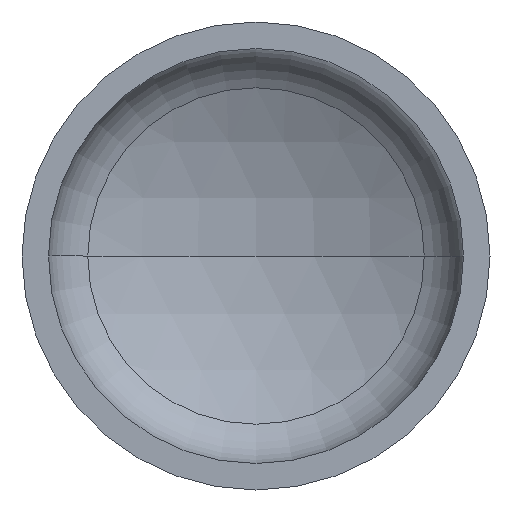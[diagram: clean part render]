
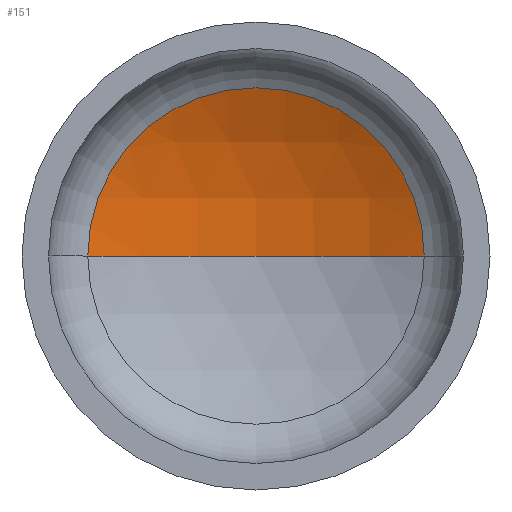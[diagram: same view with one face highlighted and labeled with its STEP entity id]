
A CAD part, front view. The second image highlights one B-rep face of the part: STEP entity #151.
In plain terms, the highlighted spherical face has radius 325 mm.
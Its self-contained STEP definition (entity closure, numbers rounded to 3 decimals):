
#12 = DIRECTION ( 'NONE',  ( 1., 0., 0. ) ) ;
#15 = EDGE_LOOP ( 'NONE', ( #114, #71, #120 ) ) ;
#24 = VERTEX_POINT ( 'NONE', #342 ) ;
#25 = AXIS2_PLACEMENT_3D ( 'NONE', #293, #165, #216 ) ;
#27 = AXIS2_PLACEMENT_3D ( 'NONE', #184, #200, #201 ) ;
#31 = AXIS2_PLACEMENT_3D ( 'NONE', #355, #309, #146 ) ;
#35 = AXIS2_PLACEMENT_3D ( 'NONE', #297, #377, #12 ) ;
#71 = ORIENTED_EDGE ( 'NONE', *, *, #137, .T. ) ;
#95 = VERTEX_POINT ( 'NONE', #240 ) ;
#114 = ORIENTED_EDGE ( 'NONE', *, *, #138, .F. ) ;
#120 = ORIENTED_EDGE ( 'NONE', *, *, #132, .T. ) ;
#132 = EDGE_CURVE ( 'NONE', #24, #134, #345, .T. ) ;
#134 = VERTEX_POINT ( 'NONE', #189 ) ;
#137 = EDGE_CURVE ( 'NONE', #95, #24, #340, .T. ) ;
#138 = EDGE_CURVE ( 'NONE', #95, #134, #402, .T. ) ;
#146 = DIRECTION ( 'NONE',  ( -1., 0., 0. ) ) ;
#151 = ADVANCED_FACE ( 'NONE', ( #156 ), #222, .F. ) ;
#156 = FACE_OUTER_BOUND ( 'NONE', #15, .T. ) ;
#165 = DIRECTION ( 'NONE',  ( 0., 0., -1. ) ) ;
#184 = CARTESIAN_POINT ( 'NONE',  ( 0., -164.942, 0. ) ) ;
#189 = CARTESIAN_POINT ( 'NONE',  ( -146.065, 125.386, 0. ) ) ;
#200 = DIRECTION ( 'NONE',  ( 0., 0., 1. ) ) ;
#201 = DIRECTION ( 'NONE',  ( 1., 0., 0. ) ) ;
#216 = DIRECTION ( 'NONE',  ( -1., 0., 0. ) ) ;
#222 = SPHERICAL_SURFACE ( 'NONE', #25, 325. ) ;
#240 = CARTESIAN_POINT ( 'NONE',  ( 0., 160.058, 0. ) ) ;
#293 = CARTESIAN_POINT ( 'NONE',  ( 0., -164.942, 0. ) ) ;
#297 = CARTESIAN_POINT ( 'NONE',  ( 0., 125.386, 0. ) ) ;
#309 = DIRECTION ( 'NONE',  ( 0., 0., -1. ) ) ;
#340 = CIRCLE ( 'NONE', #31, 325. ) ;
#342 = CARTESIAN_POINT ( 'NONE',  ( 146.065, 125.386, 0. ) ) ;
#345 = CIRCLE ( 'NONE', #35, 146.065 ) ;
#355 = CARTESIAN_POINT ( 'NONE',  ( 0., -164.942, 0. ) ) ;
#377 = DIRECTION ( 'NONE',  ( 0., -1., 0. ) ) ;
#402 = CIRCLE ( 'NONE', #27, 325. ) ;
